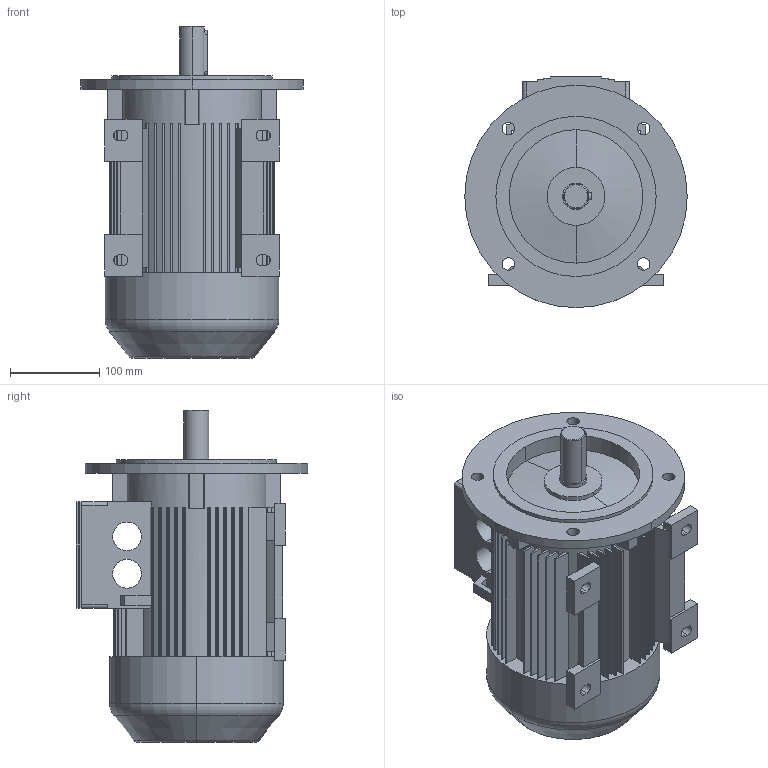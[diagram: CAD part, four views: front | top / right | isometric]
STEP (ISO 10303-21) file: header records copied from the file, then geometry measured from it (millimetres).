
FILE_DESCRIPTION((''),'2;1');
FILE_NAME('1LA7106-2AA16_PRT','2002-04-12T',('martin könig'),(''),'PRO/ENGINEER BY PARAMETRIC TECHNOLOGY CORPORATION, 2002030','PRO/ENGINEER BY PARAMETRIC TECHNOLOGY CORPORATION, 2002030','');
FILE_SCHEMA(('CONFIG_CONTROL_DESIGN'));
Length unit declared in the file: millimetre
Products named in the file (1): 1LA7106-2AA16_PRT
Bounding box: 250 x 260 x 373 mm (x, y, z)
Volume: 8120229.6 mm3; surface area: 571667.1 mm2
Topology: 1 solids, 1 shells, 325 faces, 922 edges, 608 vertices
Faces by surface type: plane 219, cylinder 96, cone 6, torus 4
Entity records: 10683 total; most frequent: CARTESIAN_POINT 1888, ORIENTED_EDGE 1844, DIRECTION 1842, EDGE_CURVE 922, VECTOR 648, LINE 648, VERTEX_POINT 608, AXIS2_PLACEMENT_3D 597
